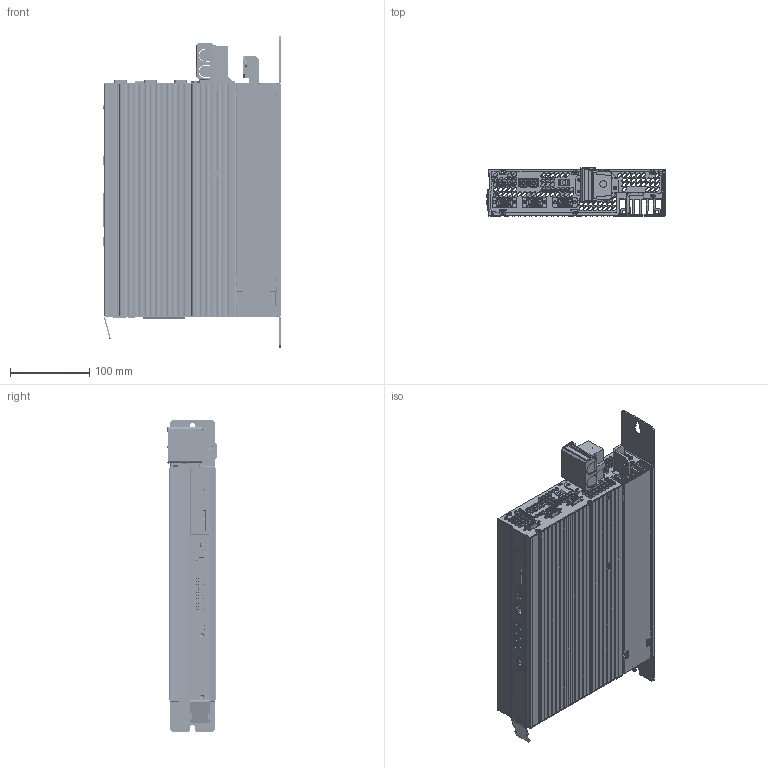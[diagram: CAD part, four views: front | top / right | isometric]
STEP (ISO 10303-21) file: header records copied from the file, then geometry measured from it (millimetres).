
FILE_DESCRIPTION(/* description */ (''),/* implementation_level */ '2;1');
FILE_NAME(/* name */ 'BG1-DC_AC',/* time_stamp */ '2010-01-14T11:08:25+01:00',/* author */ (''),/* organization */ (''),/* preprocessor_version */ 'ST-DEVELOPER v9',/* originating_system */ 'UGS - NX 4.0',/* authorisation */ '');
FILE_SCHEMA (('AUTOMOTIVE_DESIGN { 1 0 10303 214 1 1 1 1 }'));
Length unit declared in the file: millimetre
Products named in the file (1): sdum093C8d89
Bounding box: 224.19 x 61.7 x 392 mm (x, y, z)
Volume: 789900.1 mm3; surface area: 579042.6 mm2
Topology: 27 solids, 27 shells, 6242 faces, 16507 edges, 10649 vertices
Faces by surface type: plane 4030, cylinder 1322, bspline 691, cone 125, torus 41, sphere 33
Entity records: 243598 total; most frequent: CARTESIAN_POINT 48740, ORIENTED_EDGE 32938, DIRECTION 28583, EDGE_CURVE 16469, LINE 11977, VECTOR 11977, VERTEX_POINT 10649, AXIS2_PLACEMENT_3D 8303
